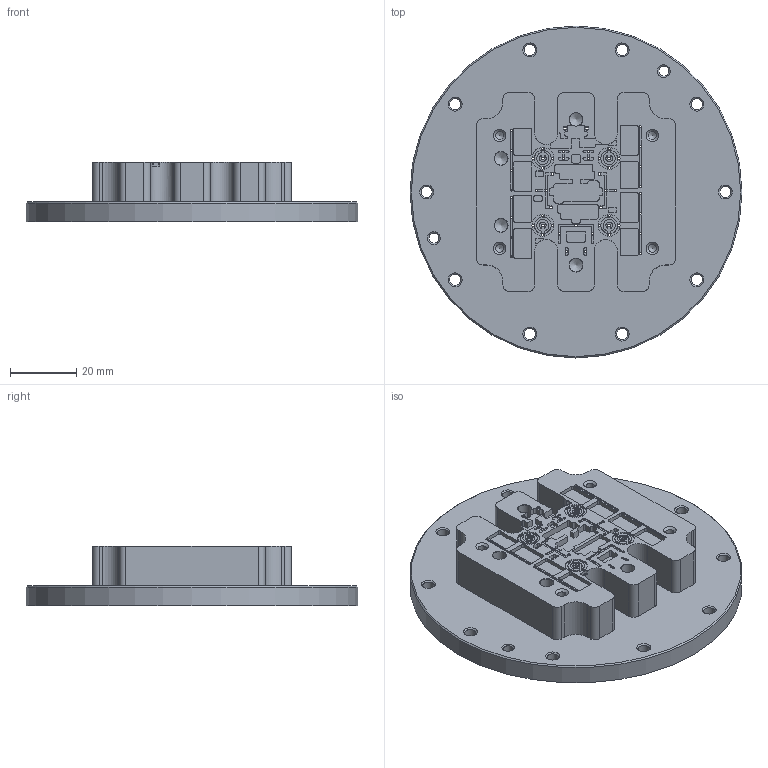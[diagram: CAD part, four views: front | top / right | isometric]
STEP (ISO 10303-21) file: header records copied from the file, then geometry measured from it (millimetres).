
FILE_DESCRIPTION(/* description */ ('Inlay'),/* implementation_level */ '2;1');
FILE_NAME(/* name */ 'Z:\Werkstatt Server\Projekte\Atlas\Entwicklung u. Konstruktion\Konstruktion\CAD Daten\ITkPix Tool\Flex Jig\ITPT.02.00.002.stp',/* time_stamp */ '2023-03-17T14:34:47+01:00',/* author */ ('Tim Kanngießer'),/* organization */ (''),/* preprocessor_version */ 'ST-DEVELOPER v19',/* originating_system */ 'Autodesk Inventor 2023',/* authorisation */ '');
FILE_SCHEMA (('AUTOMOTIVE_DESIGN { 1 0 10303 214 3 1 1 }'));
Length unit declared in the file: millimetre
Products named in the file (1): ITPT.02.00.002
Bounding box: 100 x 100 x 18 mm (x, y, z)
Volume: 62432.9 mm3; surface area: 26704.4 mm2
Topology: 1 solids, 1 shells, 588 faces, 1655 edges, 1051 vertices
Faces by surface type: plane 294, cylinder 245, cone 49
Full cylindrical faces by diameter (mm): 0.6 x16, 0.8 x39, 2 x4, 2.459 x4, 3 x2, 3.4 x10, 4 x4, 6.6 x4, 100 x1
Entity records: 19256 total; most frequent: DIRECTION 3447, ORIENTED_EDGE 3294, CARTESIAN_POINT 3291, EDGE_CURVE 1647, AXIS2_PLACEMENT_3D 1213, VERTEX_POINT 1051, LINE 1021, VECTOR 1021
